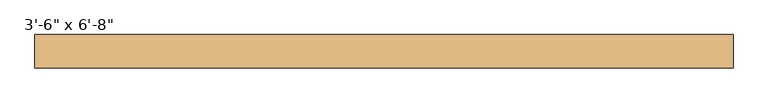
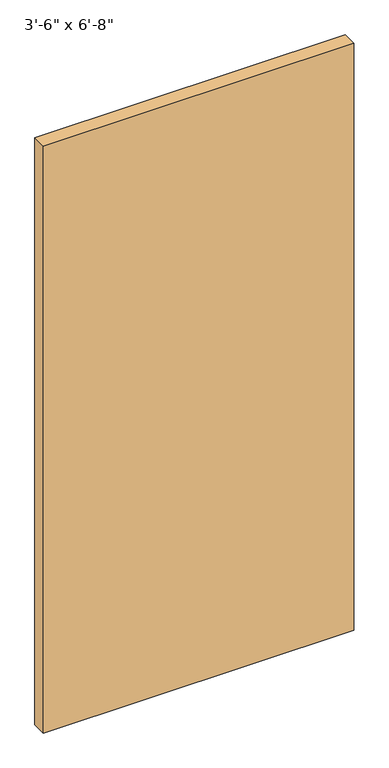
"""IFC4 building model written with IfcOpenShell, lengths in millimetres: door geometry."""

from ifc_helpers import new_model, si_unit, origin, origin_with_axes, place, context, project, spatial, polyline, outline, extrude, source, transform, mapped, element, save


def door_3a0eedbf(model_context):
    return source(origin(), model_context, "Body", "SweptSolid", [
        extrude(outline(polyline([(533.4, 25.2015625), (-533.4, 25.2015625), (-533.4, 76.2), (533.4, 76.2), (533.4, 25.2015625)])), origin_with_axes(), (0.0, 0.0, 1.0), 2133.6),
    ])


if __name__ == "__main__":
    model = new_model("IFC4")
    model_context = context("Model", 3, world=origin())
    ifc_project = project(units=[si_unit("LENGTHUNIT", "METRE", prefix="MILLI")], contexts=[model_context])
    site = spatial("IfcSite", under=ifc_project)
    building = spatial("IfcBuilding", under=site)
    placement = place(None, origin())
    door_shape = door_3a0eedbf(model_context)
    element("IfcDoor", 1, ObjectType="Planitar - Single Door_Flush Panel : 3'-6\" x 6'-8\"", at=placement, inside=building, context=model_context, shape_type="MappedRepresentation", body=[
        mapped(door_shape, transform((0.0, 0.0, 0.0), x_axis=(1.0, 0.0, 0.0), y_axis=(0.0, 1.0, 0.0), z_axis=(0.0, 0.0, 1.0))),
    ])
    save(model, "model.ifc")
